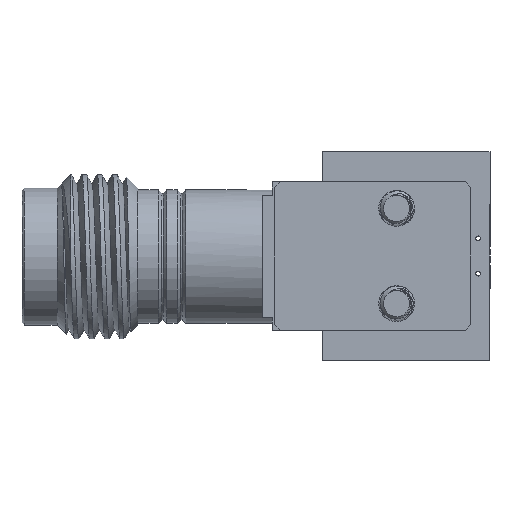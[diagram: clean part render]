
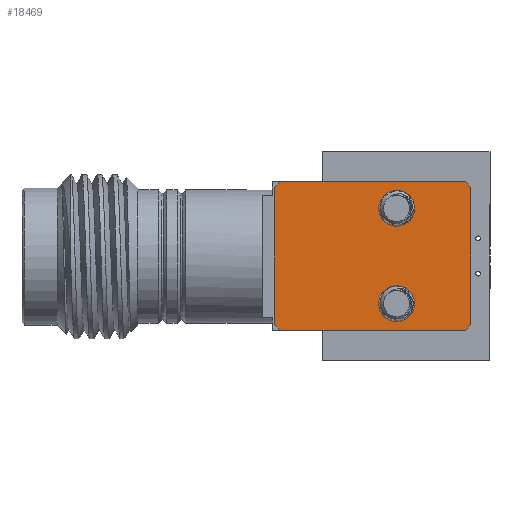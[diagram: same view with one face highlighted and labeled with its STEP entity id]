
A CAD part, front view. The second image highlights one B-rep face of the part: STEP entity #18469.
In plain terms, the highlighted planar face has unit normal (0, -1, 0) as drawn and (0, 0, -1) by its records, which use the part's own axes.
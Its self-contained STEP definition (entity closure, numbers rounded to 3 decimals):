
#467 = DIRECTION ( 'NONE',  ( -0.707, 0.707, 0. ) ) ;
#574 = VERTEX_POINT ( 'NONE', #4896 ) ;
#715 = CARTESIAN_POINT ( 'NONE',  ( 0.596, 2.032, 0. ) ) ;
#909 = VECTOR ( 'NONE', #1542, 1000. ) ;
#1504 = CARTESIAN_POINT ( 'NONE',  ( 2.921, 3.175, 0. ) ) ;
#1542 = DIRECTION ( 'NONE',  ( -1., 0., 0. ) ) ;
#1693 = ORIENTED_EDGE ( 'NONE', *, *, #13162, .T. ) ;
#1828 = CARTESIAN_POINT ( 'NONE',  ( -2.921, -3.175, 0. ) ) ;
#2312 = VECTOR ( 'NONE', #17474, 1000. ) ;
#2576 = ORIENTED_EDGE ( 'NONE', *, *, #9063, .F. ) ;
#2785 = ORIENTED_EDGE ( 'NONE', *, *, #15344, .T. ) ;
#2946 = EDGE_CURVE ( 'NONE', #574, #574, #19293, .T. ) ;
#3131 = VERTEX_POINT ( 'NONE', #13210 ) ;
#3192 = LINE ( 'NONE', #1828, #16542 ) ;
#3485 = AXIS2_PLACEMENT_3D ( 'NONE', #18012, #4600, #10554 ) ;
#3624 = ORIENTED_EDGE ( 'NONE', *, *, #3715, .T. ) ;
#3654 = VERTEX_POINT ( 'NONE', #715 ) ;
#3715 = EDGE_CURVE ( 'NONE', #13720, #8509, #18363, .T. ) ;
#3764 = ORIENTED_EDGE ( 'NONE', *, *, #16525, .T. ) ;
#3774 = FACE_BOUND ( 'NONE', #11871, .T. ) ;
#3845 = DIRECTION ( 'NONE',  ( 0., -1., 0. ) ) ;
#4117 = DIRECTION ( 'NONE',  ( 0.707, -0.707, 0. ) ) ;
#4298 = CARTESIAN_POINT ( 'NONE',  ( -2.921, 3.175, 0. ) ) ;
#4600 = DIRECTION ( 'NONE',  ( 0., 0., 1. ) ) ;
#4896 = CARTESIAN_POINT ( 'NONE',  ( 0.596, -2.032, 0. ) ) ;
#5013 = CARTESIAN_POINT ( 'NONE',  ( -5.207, -2.921, 0. ) ) ;
#5413 = CARTESIAN_POINT ( 'NONE',  ( -4.064, 4.064, 0. ) ) ;
#5447 = LINE ( 'NONE', #9932, #2312 ) ;
#5775 = VECTOR ( 'NONE', #3845, 1000. ) ;
#6374 = VECTOR ( 'NONE', #467, 1000. ) ;
#6595 = VERTEX_POINT ( 'NONE', #15446 ) ;
#6626 = DIRECTION ( 'NONE',  ( -1., 0., 0. ) ) ;
#7355 = VECTOR ( 'NONE', #4117, 1000. ) ;
#7491 = DIRECTION ( 'NONE',  ( 0., 0., 1. ) ) ;
#7506 = CARTESIAN_POINT ( 'NONE',  ( -4.953, -3.175, 0. ) ) ;
#7535 = CARTESIAN_POINT ( 'NONE',  ( -4.953, 3.175, 0. ) ) ;
#7572 = CIRCLE ( 'NONE', #3485, 0.596 ) ;
#8509 = VERTEX_POINT ( 'NONE', #5013 ) ;
#8548 = DIRECTION ( 'NONE',  ( 0.707, 0.707, 0. ) ) ;
#9063 = EDGE_CURVE ( 'NONE', #14520, #15454, #10352, .T. ) ;
#9240 = EDGE_CURVE ( 'NONE', #13720, #6595, #3192, .T. ) ;
#9463 = VECTOR ( 'NONE', #8548, 1000. ) ;
#9781 = AXIS2_PLACEMENT_3D ( 'NONE', #18451, #17391, #6626 ) ;
#9932 = CARTESIAN_POINT ( 'NONE',  ( 3.048, -3.048, 0. ) ) ;
#10008 = LINE ( 'NONE', #15959, #5775 ) ;
#10352 = LINE ( 'NONE', #4298, #909 ) ;
#10554 = DIRECTION ( 'NONE',  ( 1., 0., 0. ) ) ;
#10844 = AXIS2_PLACEMENT_3D ( 'NONE', #18050, #7491, #12151 ) ;
#11423 = EDGE_LOOP ( 'NONE', ( #18092, #1693, #2576, #2785, #15519, #13677, #14592, #3624 ) ) ;
#11536 = LINE ( 'NONE', #17526, #7355 ) ;
#11871 = EDGE_LOOP ( 'NONE', ( #16249 ) ) ;
#12151 = DIRECTION ( 'NONE',  ( 1., 0., 0. ) ) ;
#12482 = CARTESIAN_POINT ( 'NONE',  ( -4.064, -4.064, 0. ) ) ;
#12534 = EDGE_LOOP ( 'NONE', ( #3764 ) ) ;
#12675 = LINE ( 'NONE', #17200, #12885 ) ;
#12885 = VECTOR ( 'NONE', #17304, 1000. ) ;
#12907 = VERTEX_POINT ( 'NONE', #16662 ) ;
#13162 = EDGE_CURVE ( 'NONE', #3131, #15454, #15849, .T. ) ;
#13210 = CARTESIAN_POINT ( 'NONE',  ( -5.207, 2.921, 0. ) ) ;
#13494 = EDGE_CURVE ( 'NONE', #12907, #15876, #12675, .T. ) ;
#13643 = DIRECTION ( 'NONE',  ( 1., 0., 0. ) ) ;
#13677 = ORIENTED_EDGE ( 'NONE', *, *, #14464, .T. ) ;
#13720 = VERTEX_POINT ( 'NONE', #7506 ) ;
#14025 = FACE_OUTER_BOUND ( 'NONE', #11423, .T. ) ;
#14464 = EDGE_CURVE ( 'NONE', #15876, #6595, #5447, .T. ) ;
#14520 = VERTEX_POINT ( 'NONE', #1504 ) ;
#14592 = ORIENTED_EDGE ( 'NONE', *, *, #9240, .F. ) ;
#14733 = CARTESIAN_POINT ( 'NONE',  ( 3.175, -2.921, 0. ) ) ;
#14922 = EDGE_CURVE ( 'NONE', #3131, #8509, #10008, .T. ) ;
#15344 = EDGE_CURVE ( 'NONE', #14520, #12907, #11536, .T. ) ;
#15446 = CARTESIAN_POINT ( 'NONE',  ( 2.921, -3.175, 0. ) ) ;
#15454 = VERTEX_POINT ( 'NONE', #7535 ) ;
#15519 = ORIENTED_EDGE ( 'NONE', *, *, #13494, .T. ) ;
#15849 = LINE ( 'NONE', #5413, #9463 ) ;
#15876 = VERTEX_POINT ( 'NONE', #14733 ) ;
#15959 = CARTESIAN_POINT ( 'NONE',  ( -5.207, 6.592, 0. ) ) ;
#16249 = ORIENTED_EDGE ( 'NONE', *, *, #2946, .T. ) ;
#16525 = EDGE_CURVE ( 'NONE', #3654, #3654, #7572, .T. ) ;
#16542 = VECTOR ( 'NONE', #13643, 1000. ) ;
#16662 = CARTESIAN_POINT ( 'NONE',  ( 3.175, 2.921, 0. ) ) ;
#16993 = FACE_BOUND ( 'NONE', #12534, .T. ) ;
#17200 = CARTESIAN_POINT ( 'NONE',  ( 3.175, 5.554, 0. ) ) ;
#17304 = DIRECTION ( 'NONE',  ( 0., -1., 0. ) ) ;
#17391 = DIRECTION ( 'NONE',  ( 0., 0., -1. ) ) ;
#17474 = DIRECTION ( 'NONE',  ( -0.707, -0.707, 0. ) ) ;
#17526 = CARTESIAN_POINT ( 'NONE',  ( 3.048, 3.048, 0. ) ) ;
#18012 = CARTESIAN_POINT ( 'NONE',  ( 0., 2.032, 0. ) ) ;
#18050 = CARTESIAN_POINT ( 'NONE',  ( 0., -2.032, 0. ) ) ;
#18092 = ORIENTED_EDGE ( 'NONE', *, *, #14922, .F. ) ;
#18363 = LINE ( 'NONE', #12482, #6374 ) ;
#18451 = CARTESIAN_POINT ( 'NONE',  ( 0., 0., 0. ) ) ;
#18469 = ADVANCED_FACE ( 'NONE', ( #16993, #3774, #14025 ), #18550, .T. ) ;
#18550 = PLANE ( 'NONE',  #9781 ) ;
#19293 = CIRCLE ( 'NONE', #10844, 0.596 ) ;
